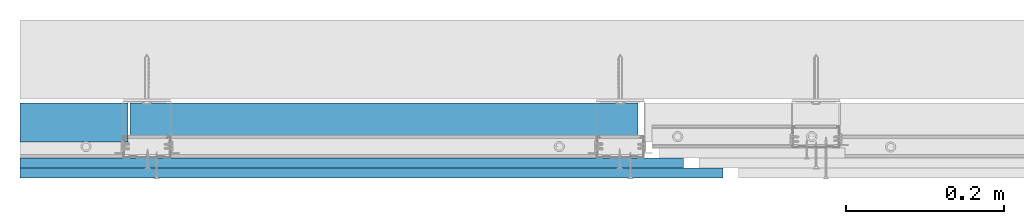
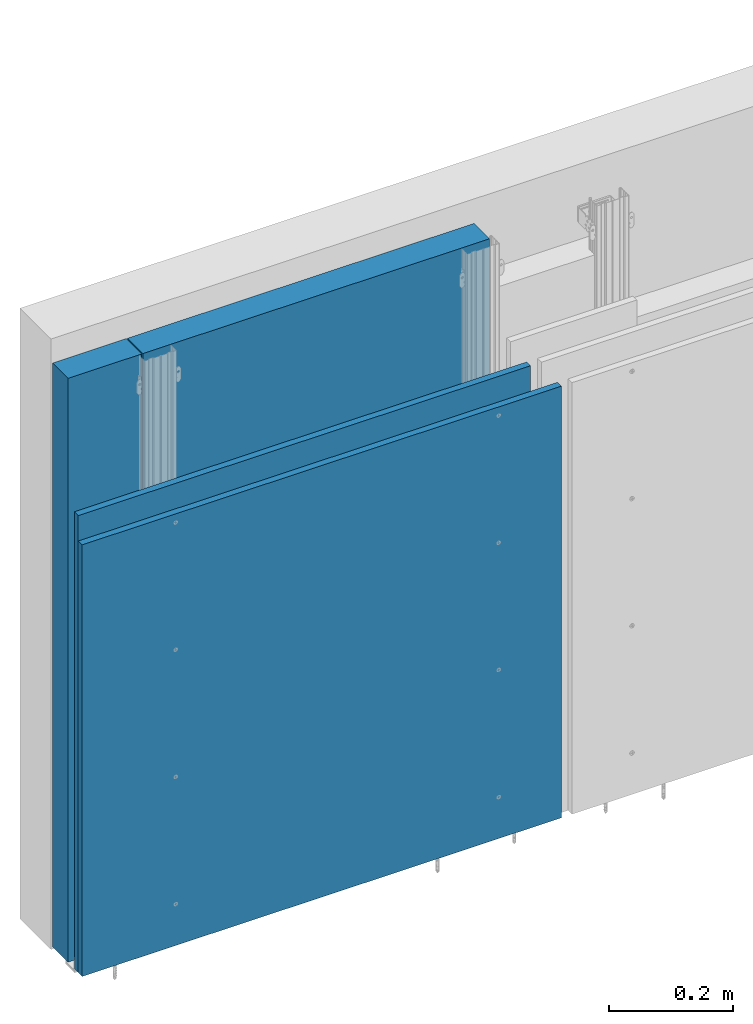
# One storey, part 2 of 48: 4 walls.
"""IFC2X3 building model written with IfcOpenShell, lengths in millimetres."""

from ifc_helpers import new_model, entity, si_unit, converted_unit, direction, frame, origin, origin_with_axes, place, context, project, spatial, faceted_brep, element, save


model = new_model("IFC2X3")

# Units and contexts
model_context = context("Model", 3, precision=1e-05, world=origin(), true_north=direction((0.0, 1.0, 0.0)))
ifc_project = project(units=[si_unit("LENGTHUNIT", "METRE", prefix="MILLI"), si_unit("AREAUNIT", "SQUARE_METRE"), si_unit("VOLUMEUNIT", "CUBIC_METRE"), converted_unit("PLANEANGLEUNIT", "DEGREE", entity("IfcPlaneAngleMeasure", 0.01745), si_unit("PLANEANGLEUNIT", "RADIAN"), dimensions=[0, 0, 0, 0, 0, 0, 0]), si_unit("SOLIDANGLEUNIT", "STERADIAN"), si_unit("MASSUNIT", "GRAM"), si_unit("TIMEUNIT", "SECOND"), si_unit("THERMODYNAMICTEMPERATUREUNIT", "DEGREE_CELSIUS"), si_unit("LUMINOUSINTENSITYUNIT", "LUMEN")], contexts=[model_context])

# Site, building, storey
site_placement = place(None, origin_with_axes())
site = spatial("IfcSite", under=ifc_project, at=site_placement, Name="Default Site", CompositionType="ELEMENT")
building_placement = place(site_placement, origin_with_axes())
building = spatial("IfcBuilding", under=site, at=building_placement, Name="Default Building", CompositionType="ELEMENT")
storey_placement = place(building_placement, origin_with_axes())
storey = spatial("IfcBuildingStorey", under=building, at=storey_placement, Name="Default Building Storey", CompositionType="ELEMENT", Elevation=0.0)

# Walls
wall_1_placement = place(storey_placement, frame((1574.102807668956, 5346.424146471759, 8.382447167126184), z_axis=(0.0, 0.0, 1.0), x_axis=(-1.0, 4.718447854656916e-16, 0.0)))
element("IfcWall", 1, at=wall_1_placement, inside=storey, Name="Wełna mineralna szklana lub skalna ISOVER", context=model_context, shape_type="Brep", body=[
    faceted_brep([(-687.8212262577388, 3329.283223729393, 1150.007948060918), (-687.821226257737, 3379.123774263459, 1150.007948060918), (-687.821226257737, 3379.123774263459, 2.350000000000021), (-687.8212262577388, 3329.283223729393, 2.350000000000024), (-550.92232580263, 3379.123774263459, 2.350000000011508), (-550.9223258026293, 3329.283223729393, 2.350000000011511), (-550.9223258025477, 3329.283223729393, 1150.007948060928), (-550.9223258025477, 3379.123774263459, 1150.007948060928)], [[[0, 1, 2, 3]], [[2, 4, 5, 3]], [[0, 6, 7, 1]], [[1, 7, 4, 2]], [[3, 5, 6, 0]], [[7, 6, 5, 4]]]),
])
wall_2_placement = place(storey_placement, frame((2150.202807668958, 5346.424146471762, 8.382447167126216), z_axis=(0.0, 0.0, 1.0), x_axis=(-1.0, 4.718447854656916e-16, 0.0)))
element("IfcWall", 2, at=wall_2_placement, inside=storey, Name="Wełna mineralna szklana lub skalna ISOVER", context=model_context, shape_type="Brep", body=[
    faceted_brep([(-758.3712262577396, 3379.123774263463, 1150.007948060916), (-114.0712262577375, 3379.123774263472, 1150.007948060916), (-114.0712262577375, 3379.123774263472, 2.350000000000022), (-758.3712262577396, 3379.123774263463, 2.350000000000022), (-758.3712262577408, 3329.283223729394, 1150.007948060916), (-758.3712262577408, 3329.283223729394, 2.350000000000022), (-114.0712262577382, 3329.283223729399, 2.350000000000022), (-114.0712262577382, 3329.283223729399, 1150.007948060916)], [[[0, 1, 2, 3]], [[4, 0, 3, 5]], [[2, 6, 5, 3]], [[4, 7, 1, 0]], [[5, 6, 7, 4]], [[1, 7, 6, 2]]]),
])
wall_3_placement = place(storey_placement, frame((3563.220739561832, 1947.166056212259, 1059.999999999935), z_axis=(0.0, 0.0, 1.0), x_axis=(-1.0, 6.389333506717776e-13, 0.0)))
element("IfcWall", 3, at=wall_3_placement, inside=storey, Name="Płyta gipsowo-kartonowa RIGIPS PRO (4PRO™)", context=model_context, shape_type="Brep", body=[
    faceted_brep([(597.2812369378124, -4.075189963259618e-10, -151.6096039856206), (597.2812369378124, 12.49999999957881, -151.6096039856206), (597.2812369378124, 12.49999999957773, -1050.001581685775), (597.2812369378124, -4.086018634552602e-10, -1050.001581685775), (1438.195606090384, 12.49999999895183, -151.6096039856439), (1438.195606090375, -1.020421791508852e-09, -151.6096039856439), (1438.195606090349, -1.018256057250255e-09, -1050.001581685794), (1438.195606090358, 12.499999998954, -1050.001581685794)], [[[0, 1, 2, 3]], [[4, 5, 6, 7]], [[4, 1, 0, 5]], [[7, 2, 1, 4]], [[0, 3, 6, 5]], [[6, 3, 2, 7]]]),
])
wall_4_placement = place(storey_placement, frame((3613.213545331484, 1934.66605621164, 1059.999999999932), z_axis=(0.0, 0.0, 1.0), x_axis=(-1.0, 6.389333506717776e-13, 0.0)))
element("IfcWall", 4, at=wall_4_placement, inside=storey, Name="Płyta gipsowo-kartonowa RIGIPS PRO (4PRO™)", context=model_context, shape_type="Brep", body=[
    faceted_brep([(597.2812369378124, -4.064361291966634e-10, -201.6096039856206), (597.2812369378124, 12.49999999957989, -201.6096039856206), (597.2812369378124, 12.49999999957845, -1050.001581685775), (597.2812369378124, -4.078799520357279e-10, -1050.001581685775), (1488.18841186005, 12.49999999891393, -201.6096039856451), (1488.188411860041, -1.058322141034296e-09, -201.6096039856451), (1488.188411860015, -1.056517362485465e-09, -1050.001581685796), (1488.188411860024, 12.49999999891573, -1050.001581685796)], [[[0, 1, 2, 3]], [[4, 5, 6, 7]], [[4, 1, 0, 5]], [[7, 2, 1, 4]], [[0, 3, 6, 5]], [[6, 3, 2, 7]]]),
])

save(model, "model.ifc")
